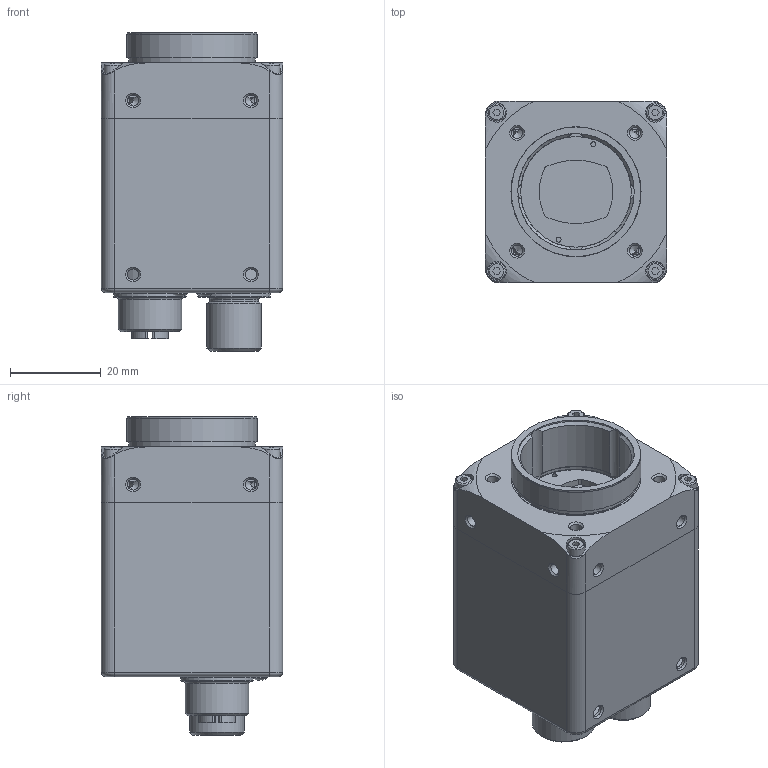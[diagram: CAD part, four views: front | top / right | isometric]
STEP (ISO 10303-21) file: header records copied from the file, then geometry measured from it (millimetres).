
FILE_DESCRIPTION(/* description */ ('Unknown'),/* implementation_level */ '2;1');
FILE_NAME(/* name */ '11702885_VCXG-201C.R.I',/* time_stamp */ '2021-03-25T14:01:58+01:00',/* author */ ('Unknown'),/* organization */ ('Baumer'),/* preprocessor_version */ 'ST-DEVELOPER v16.7',/* originating_system */ 'Solid Edge',/* authorisation */ 'Unknown');
FILE_SCHEMA (('AUTOMOTIVE_DESIGN {1 0 10303 214 3 1 1}'));
Products named in the file (1): 11702885_VCXG-201C.R.I
Bounding box: 40 x 40 x 70.25 mm (x, y, z)
Volume: 26160.7 mm3; surface area: 30810.6 mm2
Topology: 3 solids, 5 shells, 1540 faces, 3934 edges, 2617 vertices
Faces by surface type: plane 718, cylinder 588, torus 92, cone 67, bspline 39, sphere 36
Full cylindrical faces by diameter (mm): 0.217 x2, 0.6 x12, 0.63 x12, 0.7 x8, 0.75 x1, 0.8 x8, 0.85 x1, 0.9 x118, 1 x3, 1.1 x14, 1.24 x8, 2 x6, 2.4 x4, 2.459 x26, 2.8 x2, 3.4 x2, 3.8 x4, 8 x2, 8.25 x1, 8.3 x1, 8.4 x1, 8.9 x1, 9 x1, 9.3 x2, 9.4 x2, 10 x1, 10.2 x1, 10.75 x1, 11 x1, 12 x3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
Entity records: 56614 total; most frequent: CARTESIAN_POINT 11260, DIRECTION 7266, ORIENTED_EDGE 6498, EDGE_CURVE 3249, AXIS2_PLACEMENT_3D 2856, VERTEX_POINT 2337, FACE_BOUND 2208, EDGE_LOOP 2204
